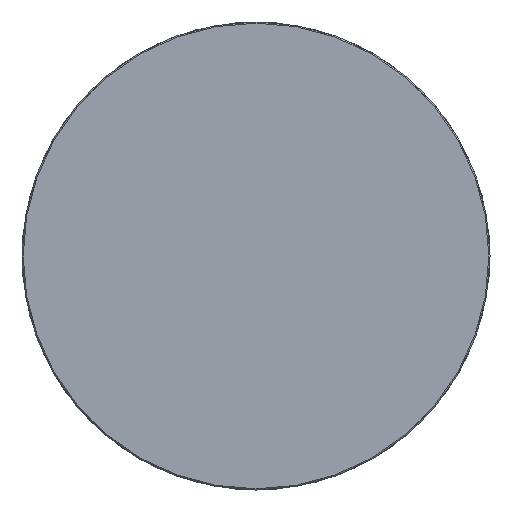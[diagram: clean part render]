
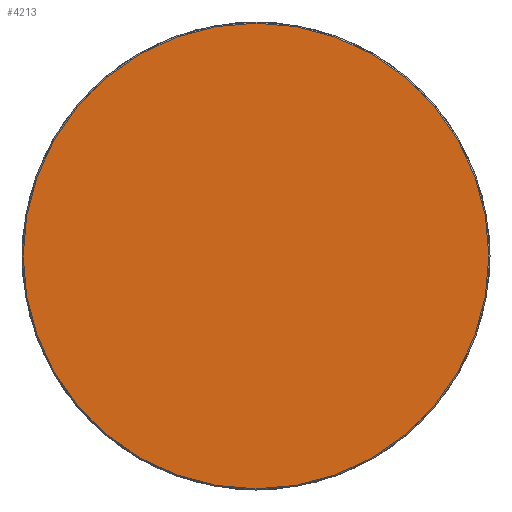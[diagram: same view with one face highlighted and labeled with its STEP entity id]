
A CAD part, left-side view. The second image highlights one B-rep face of the part: STEP entity #4213.
In plain terms, the highlighted planar face has unit normal (-1, 0, 0).
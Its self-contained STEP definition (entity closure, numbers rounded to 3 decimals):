
#283 = FACE_OUTER_BOUND ( 'NONE', #2638, .T. ) ;
#475 = CIRCLE ( 'NONE', #3727, 40.3 ) ;
#650 = DIRECTION ( 'NONE',  ( 1., 0., 0. ) ) ;
#663 = PLANE ( 'NONE',  #3895 ) ;
#706 = CARTESIAN_POINT ( 'NONE',  ( 0., 40.5, 0. ) ) ;
#876 = DIRECTION ( 'NONE',  ( 0., 0., -1. ) ) ;
#1325 = DIRECTION ( 'NONE',  ( -1., 0., 0. ) ) ;
#1367 = DIRECTION ( 'NONE',  ( 0., 0., -1. ) ) ;
#1569 = CARTESIAN_POINT ( 'NONE',  ( 0., 0., 0. ) ) ;
#2638 = EDGE_LOOP ( 'NONE', ( #2717, #3658 ) ) ;
#2717 = ORIENTED_EDGE ( 'NONE', *, *, #3099, .T. ) ;
#3072 = VERTEX_POINT ( 'NONE', #4333 ) ;
#3091 = VERTEX_POINT ( 'NONE', #4335 ) ;
#3099 = EDGE_CURVE ( 'NONE', #3072, #3091, #475, .T. ) ;
#3346 = EDGE_CURVE ( 'NONE', #3091, #3072, #4146, .T. ) ;
#3658 = ORIENTED_EDGE ( 'NONE', *, *, #3346, .T. ) ;
#3691 = AXIS2_PLACEMENT_3D ( 'NONE', #1569, #1325, #1367 ) ;
#3727 = AXIS2_PLACEMENT_3D ( 'NONE', #4347, #4337, #4321 ) ;
#3895 = AXIS2_PLACEMENT_3D ( 'NONE', #706, #650, #876 ) ;
#4146 = CIRCLE ( 'NONE', #3691, 40.3 ) ;
#4213 = ADVANCED_FACE ( 'NONE', ( #283 ), #663, .F. ) ;
#4321 = DIRECTION ( 'NONE',  ( 0., 0., -1. ) ) ;
#4333 = CARTESIAN_POINT ( 'NONE',  ( 0., 0., -40.3 ) ) ;
#4335 = CARTESIAN_POINT ( 'NONE',  ( 0., 0., 40.3 ) ) ;
#4337 = DIRECTION ( 'NONE',  ( -1., 0., 0. ) ) ;
#4347 = CARTESIAN_POINT ( 'NONE',  ( 0., 0., 0. ) ) ;
